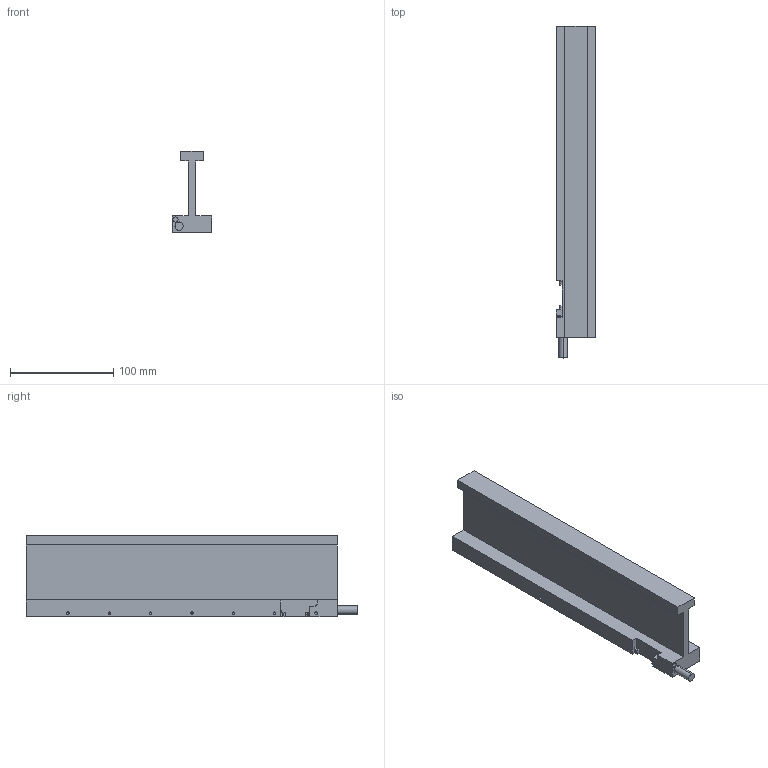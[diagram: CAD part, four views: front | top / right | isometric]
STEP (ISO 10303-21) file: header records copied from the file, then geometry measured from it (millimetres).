
FILE_DESCRIPTION (( 'STEP AP214' ), '1' );
FILE_NAME ('JKA45.STEP', '2025-09-05T08:44:31', ( '' ), ( '' ), 'SwSTEP 2.0', 'SolidWorks 2016', '' );
FILE_SCHEMA (( 'AUTOMOTIVE_DESIGN' ));
Length unit declared in the file: millimetre
Products named in the file (1): JKA45
Bounding box: 38 x 321 x 79 mm (x, y, z)
Volume: 360289.7 mm3; surface area: 84587.8 mm2
Topology: 1 solids, 1 shells, 176 faces, 449 edges, 240 vertices
Faces by surface type: cylinder 78, cone 70, plane 28
Entity records: 5608 total; most frequent: DIRECTION 886, CARTESIAN_POINT 826, ORIENTED_EDGE 758, EDGE_CURVE 379, AXIS2_PLACEMENT_3D 332, VERTEX_POINT 240, VECTOR 222, LINE 222
